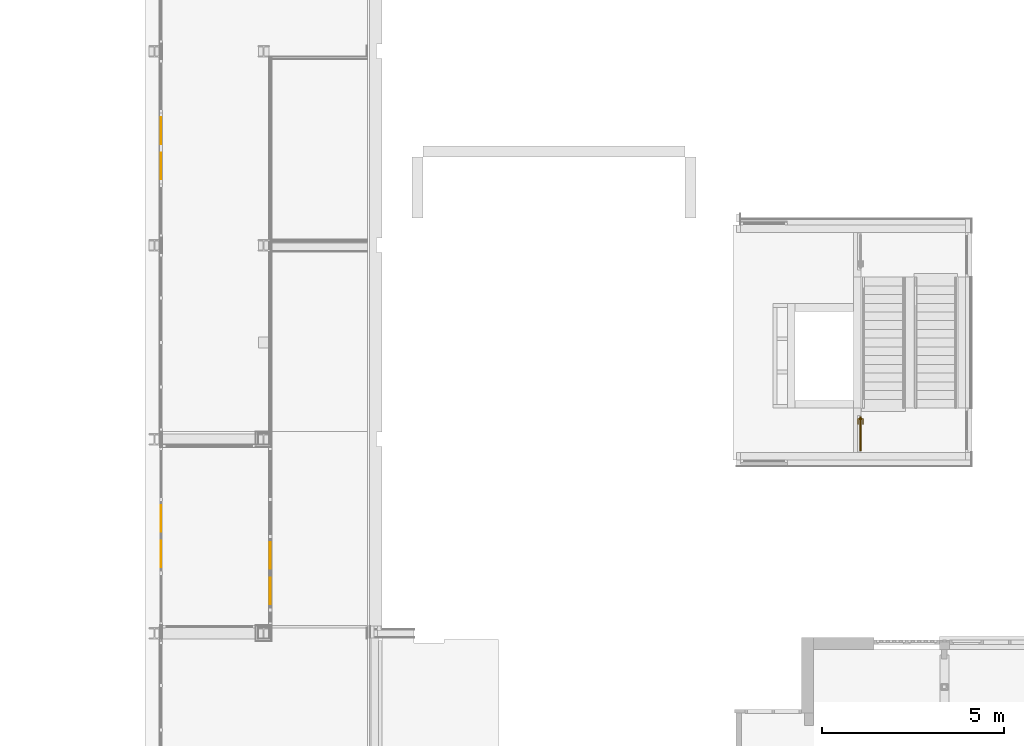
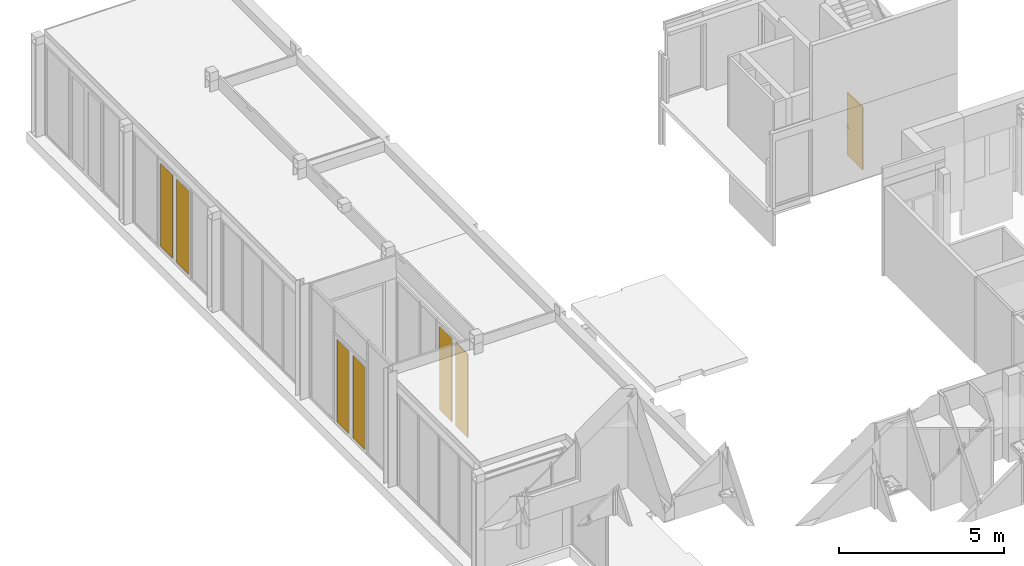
# One storey, part 76 of 99: 6 windows, 1 door.
"""IFC2X3 building model written with IfcOpenShell, lengths in millimetres."""

from ifc_helpers import new_model, entity, si_unit, converted_unit, derived_unit, money_unit, direction, frame, origin_with_axes, place, context, subcontext, project, spatial, faceted_brep, source, transform, mapped, material, type_object, type_shapes, element, save


model = new_model("IFC2X3")

# Units and contexts
model_context = context("Model", 3, precision=0.01, world=origin_with_axes(), true_north=direction((0.0, 1.0)))
body_context = subcontext(model_context, "Body", "Model", "MODEL_VIEW")
ifc_project = project(units=[si_unit("LENGTHUNIT", "METRE", prefix="MILLI"), si_unit("AREAUNIT", "SQUARE_METRE"), si_unit("VOLUMEUNIT", "CUBIC_METRE"), converted_unit("PLANEANGLEUNIT", "DEGREE", entity("IfcPlaneAngleMeasure", 0.0174532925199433), si_unit("PLANEANGLEUNIT", "RADIAN"), dimensions=[0, 0, 0, 0, 0, 0, 0]), money_unit("EUR"), converted_unit("TIMEUNIT", "Year", entity("IfcTimeMeasure", 31557600.0), si_unit("TIMEUNIT", "SECOND"), dimensions=[0, 0, 1, 0, 0, 0, 0]), si_unit("MASSUNIT", "GRAM", prefix="KILO"), si_unit("THERMODYNAMICTEMPERATUREUNIT", "DEGREE_CELSIUS"), si_unit("LUMINOUSINTENSITYUNIT", "LUMEN"), si_unit("ENERGYUNIT", "JOULE", prefix="MEGA"), derived_unit("THERMALCONDUCTANCEUNIT", [(si_unit("POWERUNIT", "WATT"), 1), (si_unit("LENGTHUNIT", "METRE"), -1), (si_unit("THERMODYNAMICTEMPERATUREUNIT", "KELVIN"), -1)]), derived_unit("SPECIFICHEATCAPACITYUNIT", [(si_unit("ENERGYUNIT", "JOULE"), 1), (si_unit("MASSUNIT", "GRAM", prefix="KILO"), -1), (si_unit("THERMODYNAMICTEMPERATUREUNIT", "KELVIN"), -1)]), derived_unit("MASSDENSITYUNIT", [(si_unit("MASSUNIT", "GRAM", prefix="KILO"), 1), (si_unit("VOLUMEUNIT", "CUBIC_METRE"), -1)])], contexts=[model_context])

# Site, building, storey
site_placement = place(None, origin_with_axes())
site = spatial("IfcSite", under=ifc_project, at=site_placement, Name="Site", CompositionType="ELEMENT")
building_placement = place(site_placement, origin_with_axes())
building = spatial("IfcBuilding", under=site, at=building_placement, Name="Naam gebouw", CompositionType="ELEMENT")
storey_placement = place(building_placement, frame((0.0, 0.0, 7650.0), z_axis=(0.0, 0.0, 1.0), x_axis=(1.0, 0.0, 0.0)))
storey = spatial("IfcBuildingStorey", under=building, at=storey_placement, Name="2e verdieping N", CompositionType="ELEMENT", Elevation=7650.0)

# Door
ifc_material_1 = material(Name="<Unnamed>")
door_style = type_object("IfcDoorStyle", Name="NLRS_32_deur stomp dicht_WID:Deur", ConstructionType="NOTDEFINED", OperationType="NOTDEFINED", ParameterTakesPrecedence=False, Sizeable=False)
shared_shape_1 = source(origin_with_axes(), body_context, "Body", "Brep", [
    faceted_brep([(417.5000000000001, -65.96445239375, 1078.34936490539), (407.58819045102, -65.96445239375, 1090.34074173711), (410.0000000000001, -65.96445239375, 1091.33974596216), (411.4704761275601, -65.96445239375, 1075.85185434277), (410.0000000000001, -74.00000000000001, 1091.33974596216), (407.58819045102, -74.00000000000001, 1090.34074173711), (422.6776695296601, -65.96445239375, 1082.32233047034), (411.4704761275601, -74.00000000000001, 1075.85185434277), (417.5000000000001, -74.00000000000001, 1078.34936490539), (405.0, -65.96445239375, 1090.0), (412.0710678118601, -74.00000000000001, 1092.92893218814), (412.0710678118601, -65.96445239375, 1092.92893218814), (405.0, -74.00000000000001, 1090.0), (422.6776695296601, -74.00000000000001, 1082.32233047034), (405.0, -74.00000000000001, 1075.0), (405.0, -65.96445239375, 1075.0), (413.66025403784, -65.96445239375, 1095.0), (413.66025403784, -74.00000000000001, 1095.0), (402.41180954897, -74.00000000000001, 1090.34074173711), (402.41180954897, -65.96445239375, 1090.34074173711), (426.6506350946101, -65.96445239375, 1087.5), (426.6506350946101, -74.00000000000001, 1087.5), (398.52952387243, -74.00000000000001, 1075.85185434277), (398.52952387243, -65.96445239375, 1075.85185434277), (414.65925826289, -74.00000000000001, 1097.41180954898), (414.65925826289, -65.96445239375, 1097.41180954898), (400.0, -65.96445239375, 1091.33974596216), (400.0, -74.00000000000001, 1091.33974596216), (429.14814565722, -74.00000000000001, 1093.52952387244), (429.14814565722, -65.96445239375, 1093.52952387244), (392.5, -74.00000000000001, 1078.34936490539), (392.5, -65.96445239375, 1078.34936490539), (415.0000000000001, -74.00000000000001, 1100.0), (415.0000000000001, -65.96445239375, 1100.0), (397.92893218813, -65.96445239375, 1092.92893218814), (397.92893218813, -74.00000000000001, 1092.92893218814), (430.0000000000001, -65.96445239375, 1100.0), (430.0000000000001, -74.00000000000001, 1100.0), (387.32233047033, -74.00000000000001, 1082.32233047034), (387.32233047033, -65.96445239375, 1082.32233047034), (414.65925826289, -74.00000000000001, 1102.58819045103), (414.65925826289, -65.96445239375, 1102.58819045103), (396.3397459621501, -65.96445239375, 1095.0), (396.3397459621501, -74.00000000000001, 1095.0), (429.14814565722, -65.96445239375, 1106.47047612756), (429.14814565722, -74.00000000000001, 1106.47047612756), (383.3493649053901, -74.00000000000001, 1087.5), (383.3493649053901, -65.96445239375, 1087.5), (413.66025403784, -74.00000000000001, 1105.0), (413.66025403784, -65.96445239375, 1105.0), (395.34074173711, -65.96445239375, 1097.41180954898), (395.34074173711, -74.00000000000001, 1097.41180954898), (426.6506350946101, -65.96445239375, 1112.5), (426.6506350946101, -74.00000000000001, 1112.5), (380.8518543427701, -74.00000000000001, 1093.52952387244), (380.8518543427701, -65.96445239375, 1093.52952387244), (412.0710678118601, -65.96445239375, 1107.07106781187), (412.0710678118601, -74.00000000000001, 1107.07106781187), (395.0, -65.96445239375, 1100.0), (395.0, -74.00000000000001, 1100.0), (422.6776695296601, -65.96445239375, 1117.67766952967), (422.6776695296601, -74.00000000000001, 1117.67766952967), (380.0000000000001, -74.00000000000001, 1100.0), (380.0000000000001, -65.96445239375, 1100.0), (410.0000000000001, -74.00000000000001, 1108.66025403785), (410.0000000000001, -65.96445239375, 1108.66025403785), (395.34074173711, -65.96445239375, 1102.58819045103), (395.34074173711, -74.00000000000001, 1102.58819045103), (417.5000000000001, -74.00000000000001, 1121.65063509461), (417.5000000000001, -65.96445239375, 1121.65063509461), (380.8518543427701, -74.00000000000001, 1106.47047612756), (380.8518543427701, -65.96445239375, 1106.47047612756), (407.58819045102, -74.00000000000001, 1109.65925826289), (407.58819045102, -65.96445239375, 1109.65925826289), (396.3397459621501, -65.96445239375, 1105.0), (396.3397459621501, -74.00000000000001, 1105.0), (411.4704761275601, -74.00000000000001, 1124.14814565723), (411.4704761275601, -65.96445239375, 1124.14814565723), (383.3493649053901, -74.00000000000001, 1112.5), (383.3493649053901, -65.96445239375, 1112.5), (405.0, -74.00000000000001, 1110.0), (405.0, -65.96445239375, 1110.0), (397.92893218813, -65.96445239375, 1107.07106781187), (397.92893218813, -74.00000000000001, 1107.07106781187), (405.0, -65.96445239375, 1125.0), (405.0, -74.00000000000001, 1125.0), (387.32233047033, -74.00000000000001, 1117.67766952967), (387.32233047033, -65.96445239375, 1117.67766952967), (402.41180954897, -74.00000000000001, 1109.65925826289), (402.41180954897, -65.96445239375, 1109.65925826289), (400.0, -65.96445239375, 1108.66025403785), (400.0, -74.00000000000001, 1108.66025403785), (398.52952387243, -65.96445239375, 1124.14814565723), (398.52952387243, -74.00000000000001, 1124.14814565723), (392.5, -74.00000000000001, 1121.65063509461), (392.5, -65.96445239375, 1121.65063509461)], [[[0, 1, 2]], [[0, 3, 1]], [[4, 2, 1, 5]], [[0, 2, 6]], [[7, 3, 0, 8]], [[9, 1, 3]], [[10, 11, 2, 4]], [[5, 1, 9, 12]], [[5, 8, 4]], [[11, 6, 2]], [[6, 13, 8, 0]], [[14, 15, 3, 7]], [[8, 5, 7]], [[15, 9, 3]], [[16, 11, 10, 17]], [[10, 4, 13]], [[18, 12, 9, 19]], [[12, 7, 5]], [[4, 8, 13]], [[11, 20, 6]], [[21, 13, 6, 20]], [[22, 23, 15, 14]], [[14, 7, 12]], [[9, 15, 19]], [[16, 20, 11]], [[17, 10, 21]], [[16, 17, 24, 25]], [[21, 10, 13]], [[12, 18, 14]], [[26, 27, 18, 19]], [[28, 21, 20, 29]], [[22, 30, 31, 23]], [[23, 19, 15]], [[22, 14, 18]], [[20, 16, 25]], [[28, 17, 21]], [[17, 28, 24]], [[25, 24, 32, 33]], [[34, 35, 27, 26]], [[27, 22, 18]], [[23, 26, 19]], [[20, 25, 29]], [[28, 29, 36, 37]], [[27, 30, 22]], [[30, 38, 39, 31]], [[26, 23, 31]], [[24, 28, 37]], [[37, 32, 24]], [[40, 41, 33, 32]], [[25, 33, 29]], [[34, 42, 43, 35]], [[30, 27, 35]], [[26, 31, 34]], [[36, 29, 33]], [[37, 36, 44, 45]], [[38, 30, 35]], [[39, 38, 46, 47]], [[39, 34, 31]], [[37, 45, 32]], [[48, 49, 41, 40]], [[36, 33, 41]], [[40, 32, 45]], [[34, 39, 42]], [[43, 42, 50, 51]], [[35, 43, 38]], [[41, 44, 36]], [[45, 44, 52, 53]], [[43, 46, 38]], [[54, 55, 47, 46]], [[42, 39, 47]], [[56, 49, 48, 57]], [[49, 44, 41]], [[53, 48, 40]], [[53, 40, 45]], [[42, 47, 50]], [[51, 50, 58, 59]], [[43, 51, 54]], [[44, 49, 52]], [[60, 61, 53, 52]], [[46, 43, 54]], [[62, 63, 55, 54]], [[50, 47, 55]], [[49, 56, 52]], [[48, 53, 57]], [[56, 57, 64, 65]], [[58, 50, 55]], [[66, 67, 59, 58]], [[51, 59, 62]], [[54, 51, 62]], [[68, 61, 60, 69]], [[57, 53, 61]], [[52, 56, 60]], [[70, 71, 63, 62]], [[63, 58, 55]], [[57, 61, 64]], [[65, 64, 72, 73]], [[56, 65, 60]], [[74, 75, 67, 66]], [[59, 67, 70]], [[66, 58, 63]], [[62, 59, 70]], [[68, 64, 61]], [[65, 69, 60]], [[76, 68, 69, 77]], [[70, 78, 79, 71]], [[71, 66, 63]], [[68, 72, 64]], [[72, 80, 81, 73]], [[73, 69, 65]], [[74, 82, 83, 75]], [[75, 78, 67]], [[74, 66, 71]], [[67, 78, 70]], [[68, 76, 72]], [[69, 73, 77]], [[76, 77, 84, 85]], [[78, 86, 87, 79]], [[79, 74, 71]], [[80, 72, 76]], [[88, 89, 81, 80]], [[81, 77, 73]], [[82, 74, 87]], [[83, 82, 90, 91]], [[83, 86, 75]], [[75, 86, 78]], [[84, 77, 81]], [[85, 84, 92, 93]], [[85, 80, 76]], [[87, 86, 94, 95]], [[74, 79, 87]], [[91, 90, 89, 88]], [[81, 89, 84]], [[80, 85, 88]], [[87, 95, 82]], [[95, 90, 82]], [[91, 94, 83]], [[86, 83, 94]], [[92, 84, 89]], [[93, 92, 95, 94]], [[93, 88, 85]], [[90, 92, 89]], [[93, 91, 88]], [[90, 95, 92]], [[91, 93, 94]]]),
    faceted_brep([(405.0, -74.00000000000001, 1090.0), (407.58819045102, -74.00000000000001, 1090.34074173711), (410.0000000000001, -74.00000000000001, 1091.33974596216), (412.0710678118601, -74.00000000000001, 1092.92893218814), (413.66025403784, -74.00000000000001, 1095.0), (414.65925826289, -74.00000000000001, 1097.41180954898), (415.0000000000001, -74.00000000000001, 1100.0), (414.65925826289, -74.00000000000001, 1102.58819045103), (413.66025403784, -74.00000000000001, 1105.0), (412.0710678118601, -74.00000000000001, 1107.07106781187), (410.0000000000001, -74.00000000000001, 1108.66025403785), (407.58819045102, -74.00000000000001, 1109.65925826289), (405.0, -74.00000000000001, 1110.0), (402.41180954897, -74.00000000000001, 1109.65925826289), (400.0, -74.00000000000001, 1108.66025403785), (397.92893218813, -74.00000000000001, 1107.07106781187), (396.3397459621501, -74.00000000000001, 1105.0), (395.34074173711, -74.00000000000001, 1102.58819045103), (395.0, -74.00000000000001, 1100.0), (395.34074173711, -74.00000000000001, 1097.41180954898), (396.3397459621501, -74.00000000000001, 1095.0), (397.92893218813, -74.00000000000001, 1092.92893218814), (400.0, -74.00000000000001, 1091.33974596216), (402.41180954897, -74.00000000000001, 1090.34074173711), (402.41180954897, -26.58819045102, 1090.34074173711), (405.0, -24.0, 1090.0), (407.58819045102, -21.41180954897, 1090.34074173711), (412.0710678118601, -16.92893218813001, 1092.92893218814), (414.65925826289, -14.34074173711, 1097.41180954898), (415.0000000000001, -14.0, 1100.0), (414.65925826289, -14.34074173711, 1102.58819045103), (412.0710678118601, -16.92893218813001, 1107.07106781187), (407.58819045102, -21.41180954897, 1109.65925826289), (405.0, -24.0, 1110.0), (402.41180954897, -26.58819045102, 1109.65925826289), (400.0, -29.0, 1108.66025403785), (397.92893218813, -31.07106781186, 1107.07106781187), (396.3397459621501, -32.66025403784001, 1105.0), (395.34074173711, -33.65925826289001, 1102.58819045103), (395.0, -34.0, 1100.0), (395.34074173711, -33.65925826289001, 1097.41180954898), (396.3397459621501, -32.66025403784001, 1095.0), (397.92893218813, -31.07106781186, 1092.92893218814), (400.0, -29.0, 1091.33974596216), (410.0000000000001, -19.0, 1091.33974596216), (413.66025403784, -15.33974596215, 1095.0), (255.0, -14.34074173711, 1097.41180954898), (255.0, -14.0, 1100.0), (255.0, -14.34074173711, 1102.58819045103), (413.66025403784, -15.33974596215, 1105.0), (410.0000000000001, -19.0, 1108.66025403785), (255.0, -32.66025403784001, 1105.0), (255.0, -33.65925826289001, 1102.58819045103), (255.0, -34.0, 1100.0), (255.0, -33.65925826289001, 1097.41180954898), (255.0, -32.66025403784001, 1095.0), (255.0, -29.0, 1091.33974596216), (255.0, -26.58819045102, 1090.34074173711), (255.0, -24.0, 1090.0), (255.0, -21.41180954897, 1090.34074173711), (255.0, -19.0, 1091.33974596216), (255.0, -16.92893218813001, 1092.92893218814), (255.0, -15.33974596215, 1095.0), (255.0, -31.07106781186, 1092.92893218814), (255.0, -31.07106781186, 1107.07106781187), (255.0, -29.0, 1108.66025403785), (255.0, -26.58819045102, 1109.65925826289), (255.0, -24.0, 1110.0), (255.0, -21.41180954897, 1109.65925826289), (255.0, -19.0, 1108.66025403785), (255.0, -16.92893218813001, 1107.07106781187), (255.0, -15.33974596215, 1105.0)], [[[0, 1, 2, 3, 4, 5, 6, 7, 8, 9, 10, 11, 12, 13, 14, 15, 16, 17, 18, 19, 20, 21, 22, 23]], [[1, 0, 24]], [[2, 1, 25]], [[25, 3, 2]], [[26, 4, 3]], [[5, 4, 27]], [[28, 29, 6, 5]], [[29, 30, 7, 6]], [[31, 8, 7]], [[8, 32, 9]], [[9, 33, 10]], [[33, 11, 10]], [[11, 34, 12]], [[12, 35, 13]], [[14, 13, 36]], [[37, 15, 14]], [[15, 37, 16]], [[16, 37, 38, 17]], [[18, 17, 38, 39]], [[19, 18, 39, 40]], [[20, 19, 40, 41]], [[20, 41, 21]], [[41, 22, 21]], [[23, 22, 42]], [[43, 0, 23]], [[0, 43, 24]], [[24, 25, 1]], [[25, 26, 3]], [[26, 44, 4]], [[44, 27, 4]], [[5, 27, 45]], [[28, 46, 47, 29]], [[28, 5, 45]], [[30, 29, 47, 48]], [[30, 49, 7]], [[50, 8, 31]], [[7, 49, 31]], [[32, 8, 50]], [[33, 9, 32]], [[11, 33, 34]], [[34, 35, 12]], [[13, 35, 36]], [[14, 36, 37]], [[38, 37, 51, 52]], [[39, 38, 52, 53]], [[39, 53, 54, 40]], [[40, 54, 55, 41]], [[22, 41, 42]], [[23, 42, 43]], [[43, 56, 57, 24]], [[58, 25, 24, 57]], [[26, 25, 58, 59]], [[26, 59, 60, 44]], [[44, 60, 61, 27]], [[27, 61, 62, 45]], [[45, 62, 46, 28]], [[60, 59, 58, 57, 56, 63, 55, 54, 53, 52, 51, 64, 65, 66, 67, 68, 69, 70, 71, 48, 47, 46, 62, 61]], [[49, 30, 48, 71]], [[50, 31, 70, 69]], [[31, 49, 71, 70]], [[32, 50, 69, 68]], [[68, 67, 33, 32]], [[34, 33, 67, 66]], [[35, 34, 66, 65]], [[36, 35, 65, 64]], [[37, 36, 64, 51]], [[41, 55, 63, 42]], [[42, 63, 56, 43]]]),
    faceted_brep([(410.0000000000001, -122.03554760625, 1091.33974596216), (407.58819045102, -122.03554760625, 1090.34074173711), (417.4999999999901, -122.03554760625, 1078.34936490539), (410.0000000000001, -114.0, 1091.33974596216), (407.58819045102, -114.0, 1090.34074173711), (411.4704761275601, -122.03554760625, 1075.85185434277), (422.6776695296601, -122.03554760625, 1082.32233047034), (412.0710678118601, -122.03554760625, 1092.92893218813), (412.0710678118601, -114.0, 1092.92893218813), (417.4999999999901, -114.0, 1078.34936490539), (405.0, -114.0, 1090.0), (405.0, -122.03554760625, 1090.0), (411.4704761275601, -114.0, 1075.85185434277), (422.6776695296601, -114.0, 1082.32233047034), (413.66025403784, -114.0, 1095.0), (413.66025403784, -122.03554760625, 1095.0), (402.41180954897, -122.03554760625, 1090.34074173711), (402.41180954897, -114.0, 1090.34074173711), (405.0, -122.03554760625, 1075.0), (405.0, -114.0, 1075.0), (426.6506350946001, -122.03554760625, 1087.5), (426.6506350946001, -114.0, 1087.5), (414.65925826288, -122.03554760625, 1097.41180954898), (414.65925826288, -114.0, 1097.41180954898), (400.0, -114.0, 1091.33974596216), (400.0, -122.03554760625, 1091.33974596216), (398.52952387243, -122.03554760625, 1075.85185434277), (398.52952387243, -114.0, 1075.85185434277), (429.14814565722, -122.03554760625, 1093.52952387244), (429.14814565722, -114.0, 1093.52952387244), (415.0000000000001, -122.03554760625, 1100.0), (415.0000000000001, -114.0, 1100.0), (397.92893218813, -114.0, 1092.92893218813), (397.92893218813, -122.03554760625, 1092.92893218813), (392.4999999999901, -122.03554760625, 1078.34936490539), (392.4999999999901, -114.0, 1078.34936490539), (430.0000000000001, -122.03554760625, 1100.0), (430.0000000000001, -114.0, 1100.0), (414.65925826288, -122.03554760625, 1102.58819045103), (414.65925826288, -114.0, 1102.58819045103), (396.3397459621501, -114.0, 1095.0), (396.3397459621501, -122.03554760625, 1095.0), (387.32233047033, -122.03554760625, 1082.32233047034), (387.32233047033, -114.0, 1082.32233047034), (429.14814565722, -114.0, 1106.47047612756), (429.14814565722, -122.03554760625, 1106.47047612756), (413.66025403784, -122.03554760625, 1105.0), (413.66025403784, -114.0, 1105.0), (395.3407417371, -122.03554760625, 1097.41180954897), (395.3407417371, -114.0, 1097.41180954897), (383.3493649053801, -114.0, 1087.5), (383.3493649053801, -122.03554760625, 1087.5), (426.6506350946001, -114.0, 1112.5), (426.6506350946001, -122.03554760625, 1112.5), (412.0710678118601, -114.0, 1107.07106781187), (412.0710678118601, -122.03554760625, 1107.07106781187), (380.8518543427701, -114.0, 1093.52952387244), (395.0, -122.03554760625, 1100.0), (395.0, -114.0, 1100.0), (380.8518543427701, -122.03554760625, 1093.52952387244), (422.6776695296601, -114.0, 1117.67766952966), (422.6776695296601, -122.03554760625, 1117.67766952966), (410.0000000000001, -122.03554760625, 1108.66025403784), (410.0000000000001, -114.0, 1108.66025403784), (380.0000000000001, -114.0, 1100.0), (395.3407417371, -114.0, 1102.58819045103), (395.3407417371, -122.03554760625, 1102.58819045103), (380.0000000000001, -122.03554760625, 1100.0), (417.4999999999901, -122.03554760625, 1121.65063509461), (417.4999999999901, -114.0, 1121.65063509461), (407.58819045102, -122.03554760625, 1109.65925826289), (407.58819045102, -114.0, 1109.65925826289), (380.8518543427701, -114.0, 1106.47047612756), (396.3397459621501, -114.0, 1105.0), (396.3397459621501, -122.03554760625, 1105.0), (380.8518543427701, -122.03554760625, 1106.47047612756), (411.4704761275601, -122.03554760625, 1124.14814565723), (411.4704761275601, -114.0, 1124.14814565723), (405.0, -122.03554760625, 1110.0), (405.0, -114.0, 1110.0), (383.3493649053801, -114.0, 1112.5), (397.92893218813, -114.0, 1107.07106781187), (397.92893218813, -122.03554760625, 1107.07106781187), (383.3493649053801, -122.03554760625, 1112.5), (405.0, -122.03554760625, 1125.0), (405.0, -114.0, 1125.0), (402.41180954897, -122.03554760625, 1109.65925826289), (402.41180954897, -114.0, 1109.65925826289), (387.32233047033, -114.0, 1117.67766952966), (400.0, -122.03554760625, 1108.66025403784), (400.0, -114.0, 1108.66025403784), (387.32233047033, -122.03554760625, 1117.67766952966), (398.52952387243, -114.0, 1124.14814565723), (398.52952387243, -122.03554760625, 1124.14814565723), (392.4999999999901, -114.0, 1121.65063509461), (392.4999999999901, -122.03554760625, 1121.65063509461)], [[[0, 1, 2]], [[1, 0, 3, 4]], [[1, 5, 2]], [[6, 0, 2]], [[0, 7, 8, 3]], [[3, 9, 4]], [[10, 11, 1, 4]], [[5, 1, 11]], [[9, 2, 5, 12]], [[0, 6, 7]], [[9, 13, 6, 2]], [[14, 8, 7, 15]], [[13, 3, 8]], [[13, 9, 3]], [[12, 4, 9]], [[16, 11, 10, 17]], [[4, 12, 10]], [[5, 11, 18]], [[12, 5, 18, 19]], [[6, 20, 7]], [[20, 6, 13, 21]], [[21, 8, 14]], [[7, 20, 15]], [[22, 23, 14, 15]], [[13, 8, 21]], [[16, 18, 11]], [[19, 17, 10]], [[16, 17, 24, 25]], [[10, 12, 19]], [[18, 26, 27, 19]], [[28, 20, 21, 29]], [[21, 14, 29]], [[22, 15, 20]], [[30, 31, 23, 22]], [[23, 29, 14]], [[18, 16, 26]], [[17, 19, 27]], [[17, 27, 24]], [[25, 24, 32, 33]], [[16, 25, 26]], [[26, 34, 35, 27]], [[28, 22, 20]], [[36, 28, 29, 37]], [[30, 38, 39, 31]], [[23, 31, 37]], [[28, 30, 22]], [[37, 29, 23]], [[27, 35, 24]], [[32, 24, 35]], [[32, 40, 41, 33]], [[33, 34, 25]], [[34, 26, 25]], [[34, 42, 43, 35]], [[30, 28, 36]], [[44, 45, 36, 37]], [[38, 30, 36]], [[38, 46, 47, 39]], [[44, 31, 39]], [[31, 44, 37]], [[32, 35, 43]], [[43, 40, 32]], [[48, 41, 40, 49]], [[41, 42, 33]], [[34, 33, 42]], [[50, 43, 42, 51]], [[52, 53, 45, 44]], [[36, 45, 38]], [[38, 45, 46]], [[54, 47, 46, 55]], [[39, 47, 52]], [[44, 39, 52]], [[43, 50, 40]], [[48, 51, 41]], [[56, 49, 40]], [[57, 48, 49, 58]], [[51, 42, 41]], [[50, 51, 59, 56]], [[52, 60, 61, 53]], [[53, 46, 45]], [[54, 52, 47]], [[53, 55, 46]], [[62, 63, 54, 55]], [[56, 40, 50]], [[59, 51, 48]], [[64, 49, 56]], [[59, 48, 57]], [[64, 58, 49]], [[57, 58, 65, 66]], [[56, 59, 67, 64]], [[60, 52, 54]], [[68, 61, 60, 69]], [[61, 55, 53]], [[70, 71, 63, 62]], [[63, 60, 54]], [[61, 62, 55]], [[59, 57, 67]], [[72, 58, 64]], [[72, 65, 58]], [[66, 65, 73, 74]], [[67, 57, 66]], [[67, 75, 72, 64]], [[61, 68, 62]], [[60, 63, 69]], [[76, 68, 69, 77]], [[70, 78, 79, 71]], [[63, 71, 69]], [[62, 68, 70]], [[72, 80, 65]], [[65, 80, 73]], [[73, 81, 82, 74]], [[75, 66, 74]], [[67, 66, 75]], [[75, 83, 80, 72]], [[76, 70, 68]], [[71, 77, 69]], [[84, 76, 77, 85]], [[70, 76, 78]], [[79, 78, 86, 87]], [[77, 71, 79]], [[80, 88, 73]], [[73, 88, 81]], [[89, 82, 81, 90]], [[91, 74, 82]], [[75, 74, 83]], [[83, 91, 88, 80]], [[78, 76, 84]], [[77, 79, 85]], [[92, 93, 84, 85]], [[84, 86, 78]], [[86, 89, 90, 87]], [[87, 85, 79]], [[94, 81, 88]], [[82, 89, 95]], [[81, 94, 90]], [[91, 83, 74]], [[82, 95, 91]], [[94, 88, 91, 95]], [[94, 95, 93, 92]], [[86, 84, 93]], [[85, 87, 92]], [[86, 93, 89]], [[87, 90, 92]], [[93, 95, 89]], [[94, 92, 90]]]),
    faceted_brep([(410.0000000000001, -114.0, 1091.33974596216), (407.58819045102, -114.0, 1090.34074173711), (405.0, -114.0, 1090.0), (402.41180954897, -114.0, 1090.34074173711), (400.0, -114.0, 1091.33974596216), (397.92893218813, -114.0, 1092.92893218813), (396.3397459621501, -114.0, 1095.0), (395.3407417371, -114.0, 1097.41180954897), (395.0, -114.0, 1100.0), (395.3407417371, -114.0, 1102.58819045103), (396.3397459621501, -114.0, 1105.0), (397.92893218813, -114.0, 1107.07106781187), (400.0, -114.0, 1108.66025403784), (402.41180954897, -114.0, 1109.65925826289), (405.0, -114.0, 1110.0), (407.58819045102, -114.0, 1109.65925826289), (410.0000000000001, -114.0, 1108.66025403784), (412.0710678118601, -114.0, 1107.07106781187), (413.66025403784, -114.0, 1105.0), (414.65925826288, -114.0, 1102.58819045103), (415.0000000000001, -114.0, 1100.0), (414.65925826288, -114.0, 1097.41180954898), (413.66025403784, -114.0, 1095.0), (412.0710678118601, -114.0, 1092.92893218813), (405.0, -164.0, 1090.0), (402.41180954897, -161.41180954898, 1090.34074173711), (400.0, -159.0, 1091.33974596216), (397.92893218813, -156.92893218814, 1092.92893218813), (396.3397459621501, -155.33974596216, 1095.0), (395.3407417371, -154.3407417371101, 1097.41180954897), (395.0, -154.0, 1100.0), (395.3407417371, -154.3407417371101, 1102.58819045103), (396.3397459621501, -155.33974596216, 1105.0), (397.92893218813, -156.92893218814, 1107.07106781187), (400.0, -159.0, 1108.66025403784), (402.41180954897, -161.41180954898, 1109.65925826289), (405.0, -164.0, 1110.0), (407.58819045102, -166.58819045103, 1109.65925826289), (412.0710678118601, -171.07106781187, 1107.07106781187), (414.65925826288, -173.65925826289, 1102.58819045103), (415.0000000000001, -174.0, 1100.0), (414.65925826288, -173.65925826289, 1097.41180954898), (412.0710678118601, -171.07106781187, 1092.92893218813), (407.58819045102, -166.58819045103, 1090.34074173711), (255.0, -155.33974596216, 1095.0), (255.0, -154.3407417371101, 1097.41180954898), (255.0, -154.0, 1100.0), (255.0, -154.3407417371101, 1102.58819045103), (255.0, -155.33974596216, 1105.0), (410.0000000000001, -169.0, 1108.66025403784), (413.66025403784, -172.66025403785, 1105.0), (255.0, -173.65925826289, 1102.58819045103), (255.0, -174.0, 1100.0), (255.0, -173.65925826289, 1097.41180954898), (413.66025403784, -172.66025403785, 1095.0), (410.0000000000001, -169.0, 1091.33974596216), (255.0, -161.41180954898, 1090.34074173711), (255.0, -164.0, 1090.0), (255.0, -159.0, 1091.33974596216), (255.0, -156.92893218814, 1092.92893218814), (255.0, -166.58819045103, 1090.34074173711), (255.0, -169.0, 1091.33974596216), (255.0, -171.07106781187, 1092.92893218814), (255.0, -172.66025403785, 1095.0), (255.0, -172.66025403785, 1105.0), (255.0, -171.07106781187, 1107.07106781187), (255.0, -169.0, 1108.66025403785), (255.0, -166.58819045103, 1109.65925826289), (255.0, -164.0, 1110.0), (255.0, -161.41180954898, 1109.65925826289), (255.0, -159.0, 1108.66025403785), (255.0, -156.92893218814, 1107.07106781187)], [[[0, 1, 2, 3, 4, 5, 6, 7, 8, 9, 10, 11, 12, 13, 14, 15, 16, 17, 18, 19, 20, 21, 22, 23]], [[24, 1, 0]], [[25, 2, 1]], [[3, 2, 26]], [[27, 4, 3]], [[5, 4, 28]], [[5, 28, 6]], [[28, 29, 7, 6]], [[29, 30, 8, 7]], [[30, 31, 9, 8]], [[31, 32, 10, 9]], [[10, 32, 11]], [[12, 11, 32]], [[33, 13, 12]], [[13, 34, 14]], [[14, 35, 15]], [[16, 15, 36]], [[16, 36, 17]], [[17, 37, 18]], [[19, 18, 38]], [[20, 19, 39, 40]], [[20, 40, 41, 21]], [[42, 22, 21]], [[23, 22, 43]], [[0, 23, 24]], [[1, 24, 25]], [[25, 26, 2]], [[26, 27, 3]], [[27, 28, 4]], [[44, 45, 29, 28]], [[45, 46, 30, 29]], [[46, 47, 31, 30]], [[47, 48, 32, 31]], [[32, 33, 12]], [[33, 34, 13]], [[14, 34, 35]], [[35, 36, 15]], [[37, 17, 36]], [[49, 18, 37]], [[38, 18, 49]], [[38, 50, 19]], [[19, 50, 39]], [[51, 52, 40, 39]], [[52, 53, 41, 40]], [[54, 21, 41]], [[22, 42, 55]], [[54, 42, 21]], [[22, 55, 43]], [[23, 43, 24]], [[56, 25, 24, 57]], [[56, 58, 26, 25]], [[58, 59, 27, 26]], [[59, 44, 28, 27]], [[57, 60, 61, 62, 63, 53, 52, 51, 64, 65, 66, 67, 68, 69, 70, 71, 48, 47, 46, 45, 44, 59, 58, 56]], [[48, 71, 33, 32]], [[71, 70, 34, 33]], [[70, 69, 35, 34]], [[68, 36, 35, 69]], [[37, 36, 68, 67]], [[67, 66, 49, 37]], [[66, 65, 38, 49]], [[65, 64, 50, 38]], [[64, 51, 39, 50]], [[53, 63, 54, 41]], [[62, 61, 55, 42]], [[63, 62, 42, 54]], [[61, 60, 43, 55]], [[60, 57, 24, 43]]]),
    faceted_brep([(465.0, -114.0, 0.0), (-465.0, -114.0, 0.0), (-465.0, -74.00000000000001, 0.0), (465.0, -74.00000000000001, 0.0), (-465.0, -114.0, 2315.0), (465.0, -114.0, 2315.0), (-465.0, -74.00000000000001, 2315.0), (465.0, -74.00000000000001, 2315.0)], [[[0, 1, 2, 3]], [[4, 1, 0, 5]], [[6, 2, 1, 4]], [[7, 3, 2, 6]], [[5, 0, 3, 7]], [[5, 7, 6, 4]]]),
])
type_shapes(door_style, [shared_shape_1])
door_placement = place(storey_placement, frame((33599.00000004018, 33440.31796988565, -1729.99999999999), z_axis=(0.0, 0.0, 1.0), x_axis=(0.0, 1.0, 0.0)))
element("IfcDoor", 1, at=door_placement, inside=storey, type_object=door_style, material=ifc_material_1, Name="NLRS_32_deur stomp dicht_WID:Deur", ObjectType="DOOR", context=body_context, shape_type="MappedRepresentation", body=[
    mapped(shared_shape_1, transform((0.0, 0.0, 0.0))),
])

# Windows
ifc_material_2 = material(Name="Glass")
window_style_1 = type_object("IfcWindowStyle", Name="WI_subvak:glas 2", ConstructionType="NOTDEFINED", OperationType="NOTDEFINED", ParameterTakesPrecedence=False, Sizeable=False)
shared_shape_2 = source(origin_with_axes(), body_context, "Body", "Brep", [
    faceted_brep([(366.4999999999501, 12.0, 0.0), (-366.4999999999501, 12.0, 0.0), (-366.4999999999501, 12.0, 3037.99999999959), (366.4999999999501, 12.0, 3037.99999999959), (366.4999999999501, 0.0, 0.0), (-366.4999999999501, 0.0, 0.0), (-366.4999999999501, 0.0, 3037.99999999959), (366.4999999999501, 0.0, 3037.99999999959)], [[[0, 1, 2, 3]], [[0, 4, 5, 1]], [[1, 5, 6, 2]], [[3, 2, 6, 7]], [[4, 0, 3, 7]], [[5, 4, 7, 6]]]),
    faceted_brep([(366.4999999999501, 0.0, 0.0), (-366.4999999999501, 0.0, 0.0), (-366.4999999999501, 0.0, 3037.99999999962), (366.4999999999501, 0.0, 3037.99999999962), (366.4999999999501, -12.0, 0.0), (-366.4999999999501, -12.0, 0.0), (-366.4999999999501, -12.0, 3037.99999999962), (366.4999999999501, -12.0, 3037.99999999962)], [[[0, 1, 2, 3]], [[0, 4, 5, 1]], [[1, 5, 6, 2]], [[3, 2, 6, 7]], [[4, 0, 3, 7]], [[5, 4, 7, 6]]]),
])
type_shapes(window_style_1, [shared_shape_2])
for number, where, z_axis, x_axis, name in (
    (2, (14469.50000003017, 30134.41242632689, -3379.999999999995), (0.0, 0.0, 1.0), (0.0, 1.0, 0.0), "WI_subvak:glas 2"),
    (3, (14469.50000003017, 31107.41242632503, -3379.999999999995), (0.0, 0.0, 1.0), (0.0, 1.0, 0.0), "WI_subvak:glas 2"),
):
    element("IfcWindow", number, at=place(storey_placement, frame(where, z_axis=z_axis, x_axis=x_axis)), inside=storey, type_object=window_style_1, material=ifc_material_2, Name=name, ObjectType="WINDOW", context=body_context, shape_type="MappedRepresentation", body=[
        mapped(shared_shape_2, transform((0.0, 0.0, 0.0))),
    ])
window_style_2 = type_object("IfcWindowStyle", Name="WI_subvak:glas 2", ConstructionType="NOTDEFINED", OperationType="NOTDEFINED", ParameterTakesPrecedence=False, Sizeable=False)
shared_shape_3 = source(origin_with_axes(), body_context, "Body", "Brep", [
    faceted_brep([(366.4999999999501, 12.0, 0.0), (-366.4999999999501, 12.0, 0.0), (-366.4999999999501, 12.0, 3075.99999999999), (366.4999999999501, 12.0, 3075.99999999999), (366.4999999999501, 0.0, 0.0), (-366.4999999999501, 0.0, 0.0), (-366.4999999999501, 0.0, 3075.99999999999), (366.4999999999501, 0.0, 3075.99999999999)], [[[0, 1, 2, 3]], [[0, 4, 5, 1]], [[1, 5, 6, 2]], [[3, 2, 6, 7]], [[4, 0, 3, 7]], [[5, 4, 7, 6]]]),
    faceted_brep([(366.4999999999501, 0.0, 0.0), (-366.4999999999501, 0.0, 0.0), (-366.4999999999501, 0.0, 3076.00000000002), (366.4999999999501, 0.0, 3076.00000000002), (366.4999999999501, -12.0, 0.0), (-366.4999999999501, -12.0, 0.0), (-366.4999999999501, -12.0, 3076.00000000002), (366.4999999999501, -12.0, 3076.00000000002)], [[[0, 1, 2, 3]], [[0, 4, 5, 1]], [[1, 5, 6, 2]], [[3, 2, 6, 7]], [[4, 0, 3, 7]], [[5, 4, 7, 6]]]),
])
type_shapes(window_style_2, [shared_shape_3])
for number, where, z_axis, x_axis, name in (
    (4, (14469.50000005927, 41767.41242629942, -3379.999999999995), (0.0, 0.0, 1.0), (0.0, 1.0, 0.0), "WI_subvak:glas 2"),
    (5, (14469.50000003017, 40794.41242630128, -3379.999999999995), (0.0, 0.0, 1.0), (0.0, 1.0, 0.0), "WI_subvak:glas 2"),
    (6, (17468.50000004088, 30092.41242631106, -3379.999999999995), (0.0, 0.0, 1.0), (0.0, 1.0, 0.0), "WI_subvak:glas 2"),
    (7, (17468.50000004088, 29119.41242631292, -3379.999999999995), (0.0, 0.0, 1.0), (0.0, 1.0, 0.0), "WI_subvak:glas 2"),
):
    element("IfcWindow", number, at=place(storey_placement, frame(where, z_axis=z_axis, x_axis=x_axis)), inside=storey, type_object=window_style_2, material=ifc_material_2, Name=name, ObjectType="WINDOW", context=body_context, shape_type="MappedRepresentation", body=[
        mapped(shared_shape_3, transform((0.0, 0.0, 0.0))),
    ])

save(model, "model.ifc")
